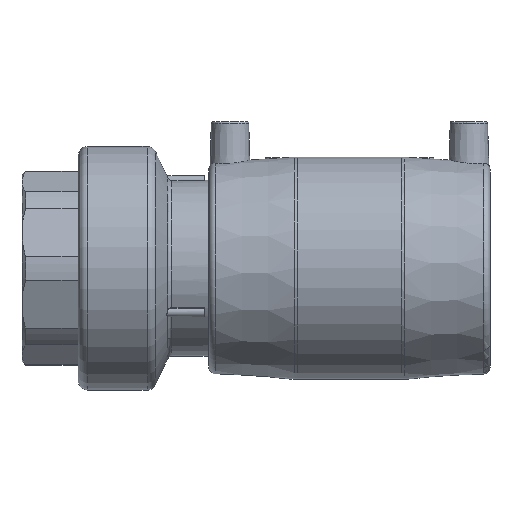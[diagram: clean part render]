
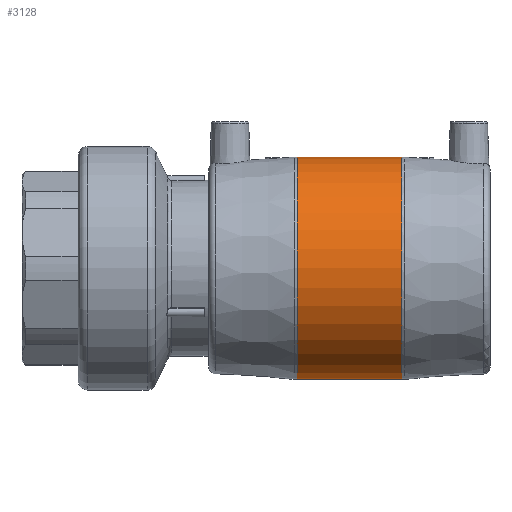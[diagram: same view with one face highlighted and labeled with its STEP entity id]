
A CAD part, front view. The second image highlights one B-rep face of the part: STEP entity #3128.
In plain terms, the highlighted cylindrical face has radius 47.5 mm (diameter 95 mm), a full revolution.
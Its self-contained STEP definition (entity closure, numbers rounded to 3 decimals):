
#546=CYLINDRICAL_SURFACE('',#3920,47.5);
#620=CIRCLE('',#3921,47.5);
#621=CIRCLE('',#3922,47.5);
#837=ORIENTED_EDGE('',*,*,#1733,.T.);
#838=ORIENTED_EDGE('',*,*,#1734,.T.);
#1733=EDGE_CURVE('',#2180,#2180,#620,.F.);
#1734=EDGE_CURVE('',#2181,#2181,#621,.T.);
#2180=VERTEX_POINT('',#5420);
#2181=VERTEX_POINT('',#5422);
#2543=EDGE_LOOP('',(#837));
#2544=EDGE_LOOP('',(#838));
#2831=FACE_BOUND('',#2543,.T.);
#2832=FACE_BOUND('',#2544,.T.);
#3128=ADVANCED_FACE('',(#2831,#2832),#546,.T.);
#3920=AXIS2_PLACEMENT_3D('',#5418,#4343,#4344);
#3921=AXIS2_PLACEMENT_3D('',#5419,#4345,#4346);
#3922=AXIS2_PLACEMENT_3D('',#5421,#4347,#4348);
#4343=DIRECTION('',(-1.,0.,0.));
#4344=DIRECTION('',(0.,0.,1.));
#4345=DIRECTION('',(1.,0.,0.));
#4346=DIRECTION('',(0.,0.,-1.));
#4347=DIRECTION('',(1.,0.,0.));
#4348=DIRECTION('',(0.,0.,-1.));
#5418=CARTESIAN_POINT('',(-60.,0.,0.));
#5419=CARTESIAN_POINT('',(22.325,0.,0.));
#5420=CARTESIAN_POINT('',(22.325,0.,-47.5));
#5421=CARTESIAN_POINT('',(-22.325,0.,0.));
#5422=CARTESIAN_POINT('',(-22.325,0.,-47.5));
